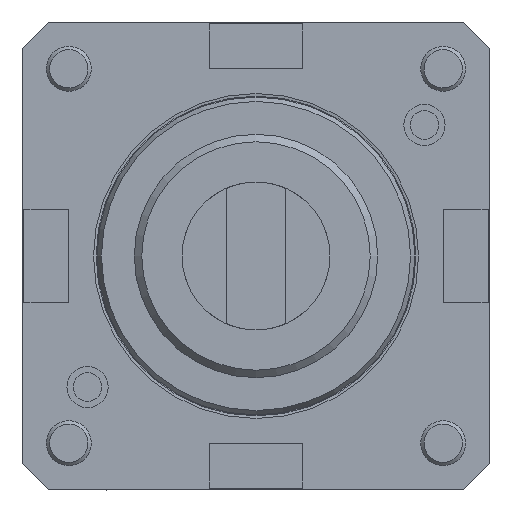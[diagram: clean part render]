
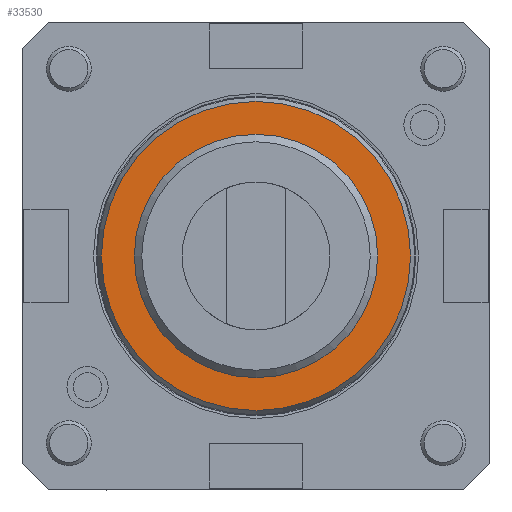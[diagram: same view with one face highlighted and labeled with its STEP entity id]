
A CAD part, left-side view. The second image highlights one B-rep face of the part: STEP entity #33530.
In plain terms, the highlighted planar face has unit normal (-1, 0, 0).
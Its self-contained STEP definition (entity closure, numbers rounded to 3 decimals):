
#13354=CIRCLE('',#32563,41.295);
#13355=CIRCLE('',#32565,32.5);
#15531=ORIENTED_EDGE('',*,*,#19425,.T.);
#15532=ORIENTED_EDGE('',*,*,#19426,.F.);
#18218=VERTEX_POINT('',#31377);
#18219=VERTEX_POINT('',#31380);
#19425=EDGE_CURVE('',#18218,#18218,#13354,.T.);
#19426=EDGE_CURVE('',#18219,#18219,#13355,.T.);
#20144=EDGE_LOOP('',(#15531));
#20145=EDGE_LOOP('',(#15532));
#20819=FACE_BOUND('',#20144,.T.);
#20820=FACE_BOUND('',#20145,.T.);
#22996=DIRECTION('',(-1.,0.,0.));
#22997=DIRECTION('',(0.,41.295,0.));
#22998=DIRECTION('',(-1.,0.,0.));
#22999=DIRECTION('',(0.,1.,0.));
#23000=DIRECTION('',(-1.,0.,0.));
#23001=DIRECTION('',(0.,32.5,0.));
#31377=CARTESIAN_POINT('',(-48.,41.295,0.));
#31378=CARTESIAN_POINT('',(-48.,0.,0.));
#31379=CARTESIAN_POINT('',(-48.,41.295,0.));
#31380=CARTESIAN_POINT('',(-48.,32.5,0.));
#31381=CARTESIAN_POINT('',(-48.,0.,0.));
#32563=AXIS2_PLACEMENT_3D('',#31378,#22996,#22997);
#32564=AXIS2_PLACEMENT_3D('',#31379,#22998,#22999);
#32565=AXIS2_PLACEMENT_3D('',#31381,#23000,#23001);
#33034=PLANE('',#32564);
#33530=ADVANCED_FACE('',(#20819,#20820),#33034,.T.);
